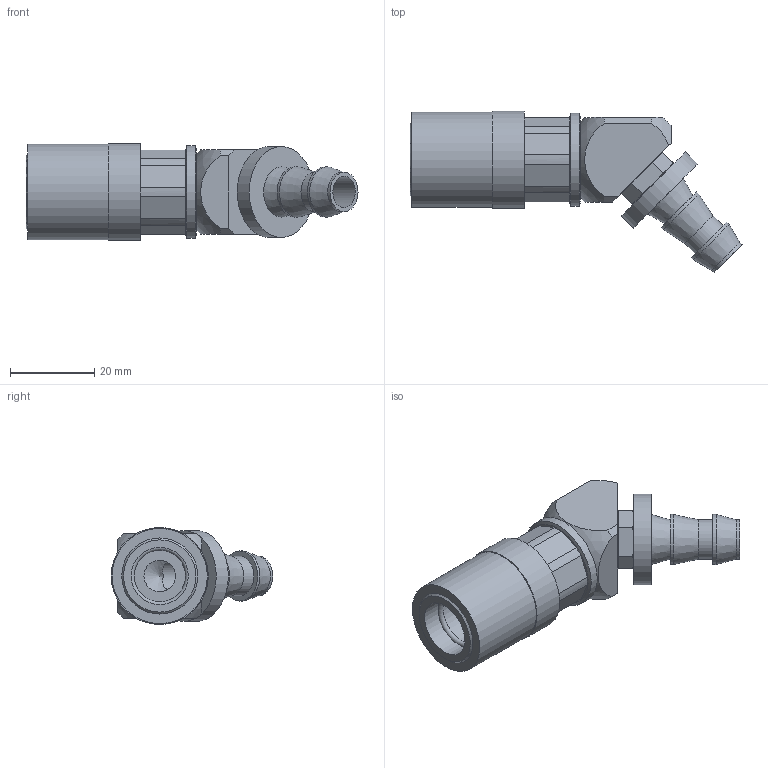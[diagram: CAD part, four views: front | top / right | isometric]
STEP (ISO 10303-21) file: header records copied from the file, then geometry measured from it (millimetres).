
FILE_DESCRIPTION(/* description */ ('STEP AP214'),/* implementation_level */ '2;1');
FILE_NAME(/* name */ 'JSL0326-SV',/* time_stamp */ '2024-12-19T09:20:09+01:00',/* author */ ('License CC BY-ND 4.0'),/* organization */ ('CADENAS'),/* preprocessor_version */ 'ST-DEVELOPER v19.3',/* originating_system */ 'PARTsolutions',/* authorisation */ ' ');
FILE_SCHEMA (('AUTOMOTIVE_DESIGN {1 0 10303 214 3 1 1}'));
Length unit declared in the file: inch
Products named in the file (1): JSL0326-SV
Bounding box: 78.89 x 38.37 x 23.06 mm (x, y, z)
Volume: 20023.9 mm3; surface area: 9221.2 mm2
Topology: 1 solids, 1 shells, 90 faces, 226 edges, 148 vertices
Faces by surface type: plane 58, cylinder 15, cone 13, sphere 3, torus 1
Full cylindrical faces by diameter (mm): 7.518 x2, 9.398 x3, 11.938 x2, 13.564 x2, 13.868 x1, 20.066 x1, 21.59 x1, 22.073 x1, 22.606 x1, 23.058 x1
Entity records: 2608 total; most frequent: CARTESIAN_POINT 533, DIRECTION 437, ORIENTED_EDGE 388, EDGE_CURVE 194, AXIS2_PLACEMENT_3D 186, VERTEX_POINT 141, FACE_BOUND 127, EDGE_LOOP 126
